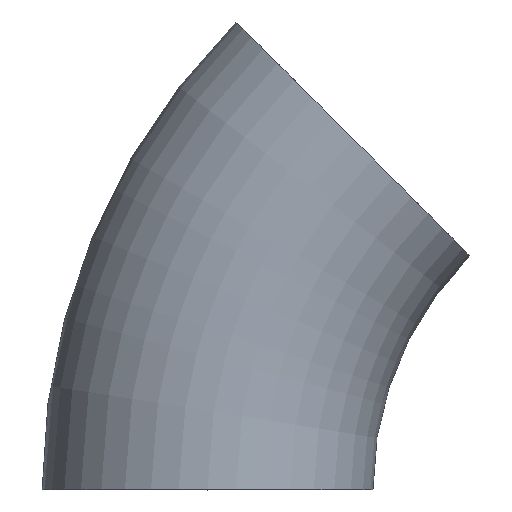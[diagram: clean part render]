
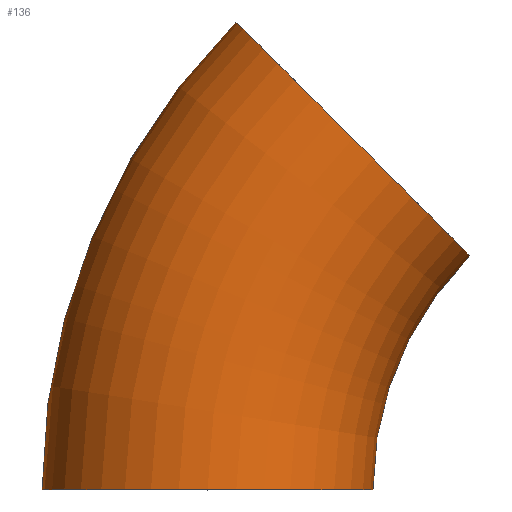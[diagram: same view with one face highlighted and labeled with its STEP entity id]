
A CAD part, top view. The second image highlights one B-rep face of the part: STEP entity #136.
In plain terms, the highlighted toroidal (fillet/blend) face has major radius 47.625 mm and minor radius 15.875 mm.
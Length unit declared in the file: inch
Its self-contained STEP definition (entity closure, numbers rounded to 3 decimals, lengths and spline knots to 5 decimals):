
#2 = DIRECTION ( 'NONE',  ( 1., 0., 0. ) ) ;
#5 = ORIENTED_EDGE ( 'NONE', *, *, #247, .F. ) ;
#7 = CIRCLE ( 'NONE', #154, 1.25 ) ;
#8 = ORIENTED_EDGE ( 'NONE', *, *, #231, .T. ) ;
#11 = CIRCLE ( 'NONE', #156, 0.625 ) ;
#14 = DIRECTION ( 'NONE',  ( 1., 0., 0. ) ) ;
#15 = DIRECTION ( 'NONE',  ( 0., 0., 1. ) ) ;
#25 = CARTESIAN_POINT ( 'NONE',  ( -1.32583, 1.32583, 0. ) ) ;
#29 = CARTESIAN_POINT ( 'NONE',  ( 0., 0., 0. ) ) ;
#46 = TOROIDAL_SURFACE ( 'NONE', #179, 1.875, 0.625 ) ;
#48 = DIRECTION ( 'NONE',  ( 0.707, 0.707, 0. ) ) ;
#51 = FACE_OUTER_BOUND ( 'NONE', #85, .T. ) ;
#53 = CIRCLE ( 'NONE', #157, 2.5 ) ;
#56 = ORIENTED_EDGE ( 'NONE', *, *, #239, .T. ) ;
#64 = VERTEX_POINT ( 'NONE', #203 ) ;
#85 = EDGE_LOOP ( 'NONE', ( #235, #8, #56, #5 ) ) ;
#130 = VERTEX_POINT ( 'NONE', #215 ) ;
#136 = ADVANCED_FACE ( 'NONE', ( #51 ), #46, .T. ) ;
#137 = DIRECTION ( 'NONE',  ( 0., 0., 1. ) ) ;
#145 = VERTEX_POINT ( 'NONE', #242 ) ;
#150 = CIRCLE ( 'NONE', #160, 0.625 ) ;
#151 = DIRECTION ( 'NONE',  ( 1., 0., 0. ) ) ;
#154 = AXIS2_PLACEMENT_3D ( 'NONE', #161, #159, #151 ) ;
#156 = AXIS2_PLACEMENT_3D ( 'NONE', #174, #169, #167 ) ;
#157 = AXIS2_PLACEMENT_3D ( 'NONE', #29, #15, #14 ) ;
#159 = DIRECTION ( 'NONE',  ( 0., 0., 1. ) ) ;
#160 = AXIS2_PLACEMENT_3D ( 'NONE', #25, #48, #137 ) ;
#161 = CARTESIAN_POINT ( 'NONE',  ( 0., 0., 0. ) ) ;
#167 = DIRECTION ( 'NONE',  ( 0., 0., 1. ) ) ;
#169 = DIRECTION ( 'NONE',  ( 0., 1., 0. ) ) ;
#174 = CARTESIAN_POINT ( 'NONE',  ( -1.875, 0., 0. ) ) ;
#179 = AXIS2_PLACEMENT_3D ( 'NONE', #234, #209, #2 ) ;
#183 = VERTEX_POINT ( 'NONE', #253 ) ;
#203 = CARTESIAN_POINT ( 'NONE',  ( -1.25, 0., 0. ) ) ;
#209 = DIRECTION ( 'NONE',  ( 0., 0., 1. ) ) ;
#215 = CARTESIAN_POINT ( 'NONE',  ( -2.5, 0., 0. ) ) ;
#222 = EDGE_CURVE ( 'NONE', #183, #145, #150, .T. ) ;
#231 = EDGE_CURVE ( 'NONE', #183, #130, #53, .T. ) ;
#234 = CARTESIAN_POINT ( 'NONE',  ( 0., 0., 0. ) ) ;
#235 = ORIENTED_EDGE ( 'NONE', *, *, #222, .F. ) ;
#239 = EDGE_CURVE ( 'NONE', #130, #64, #11, .T. ) ;
#242 = CARTESIAN_POINT ( 'NONE',  ( -0.88388, 0.88388, 0. ) ) ;
#247 = EDGE_CURVE ( 'NONE', #145, #64, #7, .T. ) ;
#253 = CARTESIAN_POINT ( 'NONE',  ( -1.76777, 1.76777, 0. ) ) ;
